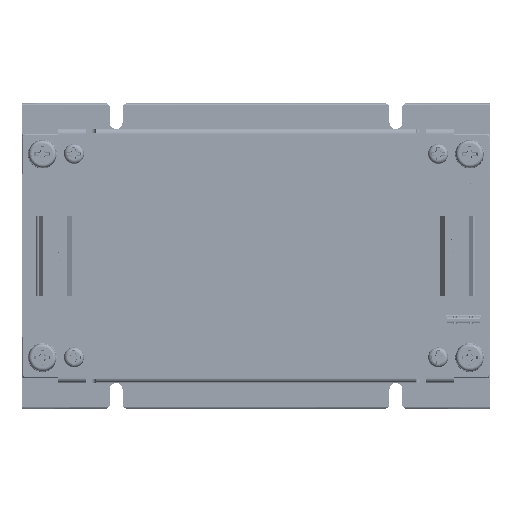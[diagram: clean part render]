
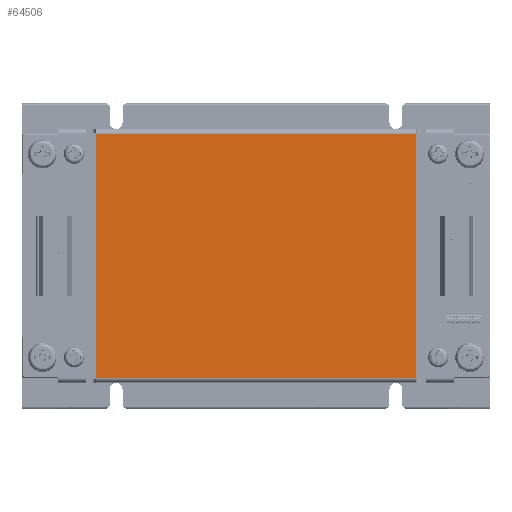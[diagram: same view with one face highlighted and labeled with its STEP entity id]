
A CAD part, top view. The second image highlights one B-rep face of the part: STEP entity #64506.
In plain terms, the highlighted planar face has unit normal (0, 0, 1).
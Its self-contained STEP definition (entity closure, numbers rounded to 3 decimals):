
#6540 = VECTOR ( 'NONE', #230712, 1000. ) ;
#6952 = LINE ( 'NONE', #81306, #304811 ) ;
#12964 = VERTEX_POINT ( 'NONE', #301564 ) ;
#21351 = LINE ( 'NONE', #145253, #152208 ) ;
#52207 = AXIS2_PLACEMENT_3D ( 'NONE', #136509, #240530, #288468 ) ;
#64506 = ADVANCED_FACE ( 'NONE', ( #290102 ), #258823, .T. ) ;
#67691 = DIRECTION ( 'NONE',  ( 0., 1., 0. ) ) ;
#81306 = CARTESIAN_POINT ( 'NONE',  ( -40.008, -20.453, 16.7 ) ) ;
#85305 = CARTESIAN_POINT ( 'NONE',  ( 39.992, 40.707, 16.7 ) ) ;
#101914 = CARTESIAN_POINT ( 'NONE',  ( -40.008, -20.253, 16.7 ) ) ;
#118960 = VERTEX_POINT ( 'NONE', #159896 ) ;
#136509 = CARTESIAN_POINT ( 'NONE',  ( -40.008, -20.453, 16.7 ) ) ;
#140068 = VERTEX_POINT ( 'NONE', #248300 ) ;
#145253 = CARTESIAN_POINT ( 'NONE',  ( -40.008, -20.253, 16.7 ) ) ;
#152208 = VECTOR ( 'NONE', #318706, 1000. ) ;
#159896 = CARTESIAN_POINT ( 'NONE',  ( -40.008, 40.707, 16.7 ) ) ;
#165173 = CARTESIAN_POINT ( 'NONE',  ( 39.992, -20.453, 16.7 ) ) ;
#168530 = EDGE_CURVE ( 'NONE', #210984, #140068, #21351, .T. ) ;
#175863 = ORIENTED_EDGE ( 'NONE', *, *, #235700, .T. ) ;
#189808 = EDGE_LOOP ( 'NONE', ( #228149, #175863, #212266, #319214 ) ) ;
#210984 = VERTEX_POINT ( 'NONE', #101914 ) ;
#212266 = ORIENTED_EDGE ( 'NONE', *, *, #248436, .F. ) ;
#214730 = LINE ( 'NONE', #165173, #312907 ) ;
#228149 = ORIENTED_EDGE ( 'NONE', *, *, #291168, .T. ) ;
#230712 = DIRECTION ( 'NONE',  ( -1., 0., 0. ) ) ;
#235700 = EDGE_CURVE ( 'NONE', #12964, #118960, #313217, .T. ) ;
#240530 = DIRECTION ( 'NONE',  ( 0., 0., 1. ) ) ;
#248300 = CARTESIAN_POINT ( 'NONE',  ( 39.992, -20.253, 16.7 ) ) ;
#248436 = EDGE_CURVE ( 'NONE', #210984, #118960, #6952, .T. ) ;
#254835 = DIRECTION ( 'NONE',  ( 0., 1., 0. ) ) ;
#258823 = PLANE ( 'NONE',  #52207 ) ;
#288468 = DIRECTION ( 'NONE',  ( 0., -1., 0. ) ) ;
#290102 = FACE_OUTER_BOUND ( 'NONE', #189808, .T. ) ;
#291168 = EDGE_CURVE ( 'NONE', #140068, #12964, #214730, .T. ) ;
#301564 = CARTESIAN_POINT ( 'NONE',  ( 39.992, 40.707, 16.7 ) ) ;
#304811 = VECTOR ( 'NONE', #254835, 1000. ) ;
#312907 = VECTOR ( 'NONE', #67691, 1000. ) ;
#313217 = LINE ( 'NONE', #85305, #6540 ) ;
#318706 = DIRECTION ( 'NONE',  ( 1., 0., 0. ) ) ;
#319214 = ORIENTED_EDGE ( 'NONE', *, *, #168530, .T. ) ;
